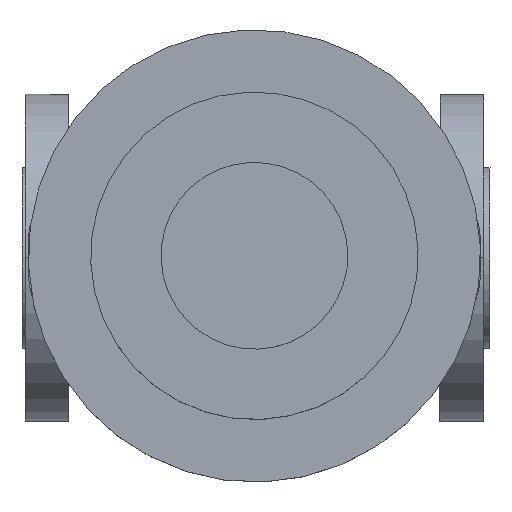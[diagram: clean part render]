
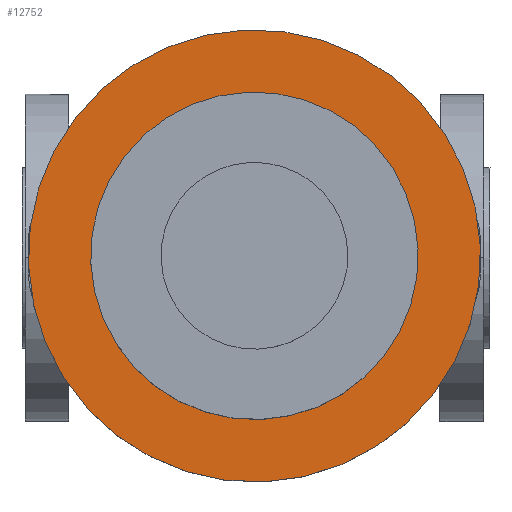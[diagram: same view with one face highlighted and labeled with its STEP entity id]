
A CAD part, top view. The second image highlights one B-rep face of the part: STEP entity #12752.
In plain terms, the highlighted planar face has unit normal (0, 0, 1).
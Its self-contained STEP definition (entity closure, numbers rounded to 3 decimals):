
#14 = FACE_BOUND ( 'NONE', #8382, .T. ) ;
#381 = EDGE_CURVE ( 'NONE', #12321, #19025, #15678, .T. ) ;
#1474 = FACE_OUTER_BOUND ( 'NONE', #8106, .T. ) ;
#1757 = CIRCLE ( 'NONE', #3013, 72.5 ) ;
#3013 = AXIS2_PLACEMENT_3D ( 'NONE', #8180, #3489, #12501 ) ;
#3318 = AXIS2_PLACEMENT_3D ( 'NONE', #18267, #4712, #4803 ) ;
#3489 = DIRECTION ( 'NONE',  ( 0., 0., 1. ) ) ;
#3691 = VERTEX_POINT ( 'NONE', #12627 ) ;
#4172 = ORIENTED_EDGE ( 'NONE', *, *, #6198, .F. ) ;
#4712 = DIRECTION ( 'NONE',  ( 0., 0., 1. ) ) ;
#4803 = DIRECTION ( 'NONE',  ( 1., 0., 0. ) ) ;
#5609 = DIRECTION ( 'NONE',  ( 1., 0., 0. ) ) ;
#6058 = ORIENTED_EDGE ( 'NONE', *, *, #14122, .T. ) ;
#6198 = EDGE_CURVE ( 'NONE', #19025, #12321, #8737, .T. ) ;
#6613 = ORIENTED_EDGE ( 'NONE', *, *, #381, .F. ) ;
#6714 = DIRECTION ( 'NONE',  ( 1., 0., 0. ) ) ;
#7059 = CARTESIAN_POINT ( 'NONE',  ( -52.115, 0., 304.1 ) ) ;
#8056 = AXIS2_PLACEMENT_3D ( 'NONE', #7059, #12957, #19174 ) ;
#8106 = EDGE_LOOP ( 'NONE', ( #6058, #13292 ) ) ;
#8180 = CARTESIAN_POINT ( 'NONE',  ( -52.115, 0., 304.1 ) ) ;
#8382 = EDGE_LOOP ( 'NONE', ( #6613, #4172 ) ) ;
#8402 = CARTESIAN_POINT ( 'NONE',  ( -52.115, 0., 304.1 ) ) ;
#8737 = CIRCLE ( 'NONE', #13116, 52.5 ) ;
#9527 = EDGE_CURVE ( 'NONE', #18376, #3691, #14019, .T. ) ;
#9691 = DIRECTION ( 'NONE',  ( 0., 0., 1. ) ) ;
#10301 = CARTESIAN_POINT ( 'NONE',  ( -72.225, 48.496, 304.1 ) ) ;
#12321 = VERTEX_POINT ( 'NONE', #10301 ) ;
#12501 = DIRECTION ( 'NONE',  ( -0.383, 0.924, 0. ) ) ;
#12627 = CARTESIAN_POINT ( 'NONE',  ( -79.886, 66.97, 304.1 ) ) ;
#12752 = ADVANCED_FACE ( 'NONE', ( #1474, #14 ), #13829, .T. ) ;
#12957 = DIRECTION ( 'NONE',  ( 0., 0., 1. ) ) ;
#13116 = AXIS2_PLACEMENT_3D ( 'NONE', #8402, #9691, #6714 ) ;
#13292 = ORIENTED_EDGE ( 'NONE', *, *, #9527, .T. ) ;
#13829 = PLANE ( 'NONE',  #3318 ) ;
#14019 = CIRCLE ( 'NONE', #8056, 72.5 ) ;
#14122 = EDGE_CURVE ( 'NONE', #3691, #18376, #1757, .T. ) ;
#14719 = CARTESIAN_POINT ( 'NONE',  ( -24.344, -66.97, 304.1 ) ) ;
#15678 = CIRCLE ( 'NONE', #18211, 52.5 ) ;
#15693 = CARTESIAN_POINT ( 'NONE',  ( -32.005, -48.496, 304.1 ) ) ;
#17605 = CARTESIAN_POINT ( 'NONE',  ( -52.115, 0., 304.1 ) ) ;
#18211 = AXIS2_PLACEMENT_3D ( 'NONE', #17605, #19085, #5609 ) ;
#18267 = CARTESIAN_POINT ( 'NONE',  ( -72.838, 49.974, 304.1 ) ) ;
#18376 = VERTEX_POINT ( 'NONE', #14719 ) ;
#19025 = VERTEX_POINT ( 'NONE', #15693 ) ;
#19085 = DIRECTION ( 'NONE',  ( 0., 0., 1. ) ) ;
#19174 = DIRECTION ( 'NONE',  ( -0.383, 0.924, 0. ) ) ;
